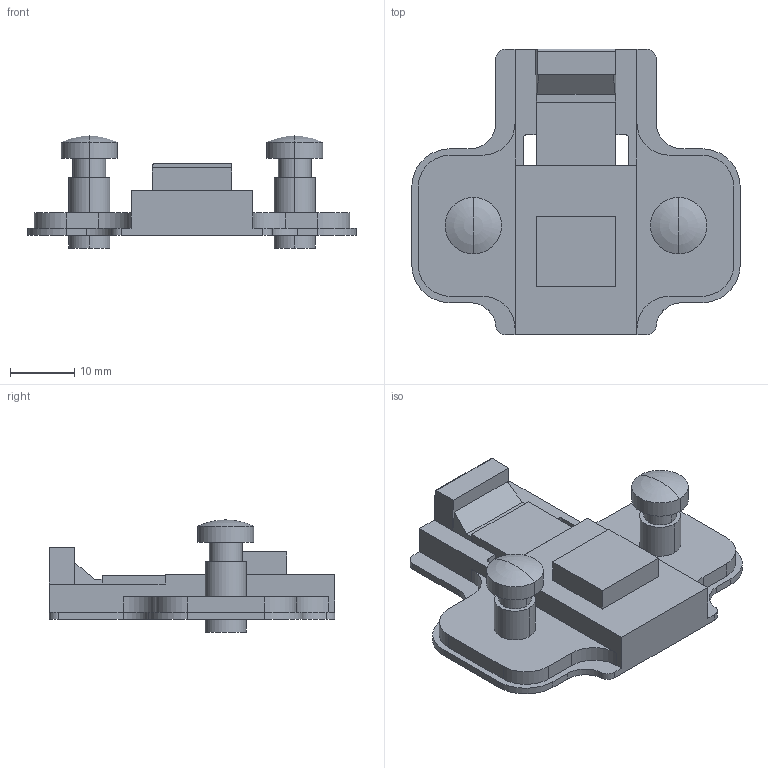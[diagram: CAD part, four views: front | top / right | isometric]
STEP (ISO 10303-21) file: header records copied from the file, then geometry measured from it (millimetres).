
FILE_DESCRIPTION (( 'STEP AP203' ), '1' );
FILE_NAME ('96H22AQ-DTC3D.STEP', '2021-04-13T01:27:11', ( '' ), ( '' ), 'SwSTEP 2.0', 'SolidWorks 2018', '' );
FILE_SCHEMA (( 'CONFIG_CONTROL_DESIGN' ));
Length unit declared in the file: millimetre
Products named in the file (1): 96H22AQ-DTC3D
Bounding box: 51.2 x 44.5 x 17.5 mm (x, y, z)
Volume: 9844.2 mm3; surface area: 5593.4 mm2
Topology: 1 solids, 1 shells, 97 faces, 263 edges, 171 vertices
Faces by surface type: plane 54, cylinder 39, torus 4
Entity records: 3119 total; most frequent: DIRECTION 535, CARTESIAN_POINT 531, ORIENTED_EDGE 518, EDGE_CURVE 259, AXIS2_PLACEMENT_3D 179, LINE 177, VECTOR 177, VERTEX_POINT 171
